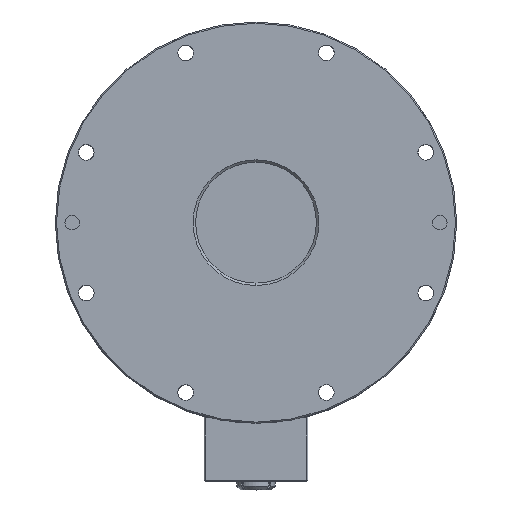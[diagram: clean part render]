
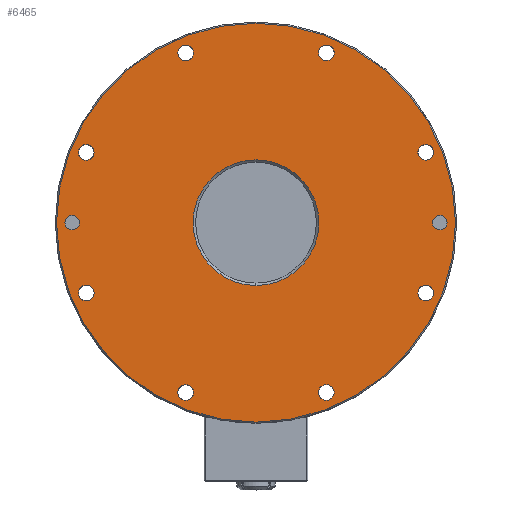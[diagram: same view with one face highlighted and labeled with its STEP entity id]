
A CAD part, top view. The second image highlights one B-rep face of the part: STEP entity #6465.
In plain terms, the highlighted planar face has unit normal (0, 0, 1).
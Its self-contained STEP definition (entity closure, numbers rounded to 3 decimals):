
#5780=CARTESIAN_POINT('',(0.,0.,13.));
#5781=DIRECTION('',(0.,0.,-1.));
#5782=DIRECTION('',(0.,-1.,0.));
#5783=AXIS2_PLACEMENT_3D('',#5780,#5781,#5782);
#5785=CARTESIAN_POINT('',(0.,0.,13.));
#5786=DIRECTION('',(0.,0.,-1.));
#5787=DIRECTION('',(0.,1.,0.));
#5788=AXIS2_PLACEMENT_3D('',#5785,#5786,#5787);
#5790=CARTESIAN_POINT('',(29.084,-70.215,13.));
#5791=DIRECTION('',(0.,0.,1.));
#5792=DIRECTION('',(-0.707,-0.707,0.));
#5793=AXIS2_PLACEMENT_3D('',#5790,#5791,#5792);
#5795=CARTESIAN_POINT('',(29.084,-70.215,13.));
#5796=DIRECTION('',(0.,0.,1.));
#5797=DIRECTION('',(0.707,0.707,0.));
#5798=AXIS2_PLACEMENT_3D('',#5795,#5796,#5797);
#5800=CARTESIAN_POINT('',(70.215,-29.084,13.));
#5801=DIRECTION('',(0.,0.,1.));
#5802=DIRECTION('',(0.,-1.,0.));
#5803=AXIS2_PLACEMENT_3D('',#5800,#5801,#5802);
#5805=CARTESIAN_POINT('',(70.215,-29.084,13.));
#5806=DIRECTION('',(0.,0.,1.));
#5807=DIRECTION('',(0.,1.,0.));
#5808=AXIS2_PLACEMENT_3D('',#5805,#5806,#5807);
#5810=CARTESIAN_POINT('',(70.215,29.084,13.));
#5811=DIRECTION('',(0.,0.,1.));
#5812=DIRECTION('',(0.707,-0.707,0.));
#5813=AXIS2_PLACEMENT_3D('',#5810,#5811,#5812);
#5815=CARTESIAN_POINT('',(70.215,29.084,13.));
#5816=DIRECTION('',(0.,0.,1.));
#5817=DIRECTION('',(-0.707,0.707,0.));
#5818=AXIS2_PLACEMENT_3D('',#5815,#5816,#5817);
#5820=CARTESIAN_POINT('',(29.084,70.215,13.));
#5821=DIRECTION('',(0.,0.,1.));
#5822=DIRECTION('',(1.,0.,0.));
#5823=AXIS2_PLACEMENT_3D('',#5820,#5821,#5822);
#5825=CARTESIAN_POINT('',(29.084,70.215,13.));
#5826=DIRECTION('',(0.,0.,1.));
#5827=DIRECTION('',(-1.,0.,0.));
#5828=AXIS2_PLACEMENT_3D('',#5825,#5826,#5827);
#5830=CARTESIAN_POINT('',(-29.084,70.215,13.));
#5831=DIRECTION('',(0.,0.,1.));
#5832=DIRECTION('',(0.707,0.707,0.));
#5833=AXIS2_PLACEMENT_3D('',#5830,#5831,#5832);
#5835=CARTESIAN_POINT('',(-29.084,70.215,13.));
#5836=DIRECTION('',(0.,0.,1.));
#5837=DIRECTION('',(-0.707,-0.707,0.));
#5838=AXIS2_PLACEMENT_3D('',#5835,#5836,#5837);
#5840=CARTESIAN_POINT('',(-70.215,29.084,13.));
#5841=DIRECTION('',(0.,0.,1.));
#5842=DIRECTION('',(0.,1.,0.));
#5843=AXIS2_PLACEMENT_3D('',#5840,#5841,#5842);
#5845=CARTESIAN_POINT('',(-70.215,29.084,13.));
#5846=DIRECTION('',(0.,0.,1.));
#5847=DIRECTION('',(0.,-1.,0.));
#5848=AXIS2_PLACEMENT_3D('',#5845,#5846,#5847);
#5850=CARTESIAN_POINT('',(-70.215,-29.084,13.));
#5851=DIRECTION('',(0.,0.,1.));
#5852=DIRECTION('',(-0.707,0.707,0.));
#5853=AXIS2_PLACEMENT_3D('',#5850,#5851,#5852);
#5855=CARTESIAN_POINT('',(-70.215,-29.084,13.));
#5856=DIRECTION('',(0.,0.,1.));
#5857=DIRECTION('',(0.707,-0.707,0.));
#5858=AXIS2_PLACEMENT_3D('',#5855,#5856,#5857);
#5860=CARTESIAN_POINT('',(0.,0.,13.));
#5861=DIRECTION('',(0.,0.,1.));
#5862=DIRECTION('',(1.,0.,0.));
#5863=AXIS2_PLACEMENT_3D('',#5860,#5861,#5862);
#5865=CARTESIAN_POINT('',(0.,0.,13.));
#5866=DIRECTION('',(0.,0.,1.));
#5867=DIRECTION('',(-1.,0.,0.));
#5868=AXIS2_PLACEMENT_3D('',#5865,#5866,#5867);
#5870=CARTESIAN_POINT('',(0.,76.,13.));
#5871=DIRECTION('',(0.,0.,1.));
#5872=DIRECTION('',(1.,0.,0.));
#5873=AXIS2_PLACEMENT_3D('',#5870,#5871,#5872);
#5875=CARTESIAN_POINT('',(0.,76.,13.));
#5876=DIRECTION('',(0.,0.,1.));
#5877=DIRECTION('',(-1.,0.,0.));
#5878=AXIS2_PLACEMENT_3D('',#5875,#5876,#5877);
#5880=CARTESIAN_POINT('',(0.,-76.,13.));
#5881=DIRECTION('',(0.,0.,1.));
#5882=DIRECTION('',(-1.,0.,0.));
#5883=AXIS2_PLACEMENT_3D('',#5880,#5881,#5882);
#5885=CARTESIAN_POINT('',(0.,-76.,13.));
#5886=DIRECTION('',(0.,0.,1.));
#5887=DIRECTION('',(1.,0.,0.));
#5888=AXIS2_PLACEMENT_3D('',#5885,#5886,#5887);
#5890=CARTESIAN_POINT('',(-29.084,-70.215,13.));
#5891=DIRECTION('',(0.,0.,1.));
#5892=DIRECTION('',(-1.,0.,0.));
#5893=AXIS2_PLACEMENT_3D('',#5890,#5891,#5892);
#5895=CARTESIAN_POINT('',(-29.084,-70.215,13.));
#5896=DIRECTION('',(0.,0.,1.));
#5897=DIRECTION('',(1.,0.,0.));
#5898=AXIS2_PLACEMENT_3D('',#5895,#5896,#5897);
#6164=CARTESIAN_POINT('',(0.,-82.5,13.));
#6165=CARTESIAN_POINT('',(0.,82.5,13.));
#6166=VERTEX_POINT('',#6164);
#6167=VERTEX_POINT('',#6165);
#6168=CARTESIAN_POINT('',(26.786,-72.513,13.));
#6169=CARTESIAN_POINT('',(31.382,-67.917,13.));
#6170=VERTEX_POINT('',#6168);
#6171=VERTEX_POINT('',#6169);
#6172=CARTESIAN_POINT('',(70.215,-32.334,13.));
#6173=CARTESIAN_POINT('',(70.215,-25.834,13.));
#6174=VERTEX_POINT('',#6172);
#6175=VERTEX_POINT('',#6173);
#6176=CARTESIAN_POINT('',(72.513,26.786,13.));
#6177=CARTESIAN_POINT('',(67.917,31.382,13.));
#6178=VERTEX_POINT('',#6176);
#6179=VERTEX_POINT('',#6177);
#6180=CARTESIAN_POINT('',(32.334,70.215,13.));
#6181=CARTESIAN_POINT('',(25.834,70.215,13.));
#6182=VERTEX_POINT('',#6180);
#6183=VERTEX_POINT('',#6181);
#6184=CARTESIAN_POINT('',(-26.786,72.513,13.));
#6185=CARTESIAN_POINT('',(-31.382,67.917,13.));
#6186=VERTEX_POINT('',#6184);
#6187=VERTEX_POINT('',#6185);
#6188=CARTESIAN_POINT('',(-70.215,32.334,13.));
#6189=CARTESIAN_POINT('',(-70.215,25.834,13.));
#6190=VERTEX_POINT('',#6188);
#6191=VERTEX_POINT('',#6189);
#6192=CARTESIAN_POINT('',(-72.513,-26.786,13.));
#6193=CARTESIAN_POINT('',(-67.917,-31.382,13.));
#6194=VERTEX_POINT('',#6192);
#6195=VERTEX_POINT('',#6193);
#6196=CARTESIAN_POINT('',(3.005,76.,13.));
#6197=CARTESIAN_POINT('',(-3.005,76.,13.));
#6198=VERTEX_POINT('',#6196);
#6199=VERTEX_POINT('',#6197);
#6200=CARTESIAN_POINT('',(-3.005,-76.,13.));
#6201=CARTESIAN_POINT('',(3.005,-76.,13.));
#6202=VERTEX_POINT('',#6200);
#6203=VERTEX_POINT('',#6201);
#6204=CARTESIAN_POINT('',(-32.334,-70.215,13.));
#6205=CARTESIAN_POINT('',(-25.834,-70.215,13.));
#6206=VERTEX_POINT('',#6204);
#6207=VERTEX_POINT('',#6205);
#6209=CARTESIAN_POINT('',(26.,0.,13.));
#6211=VERTEX_POINT('',#6209);
#6216=CARTESIAN_POINT('',(-26.,0.,13.));
#6217=VERTEX_POINT('',#6216);
#6389=CARTESIAN_POINT('',(0.,0.,13.));
#6390=DIRECTION('',(0.,0.,1.));
#6391=DIRECTION('',(0.,-1.,0.));
#6392=AXIS2_PLACEMENT_3D('',#6389,#6390,#6391);
#6393=PLANE('',#6392);
#6394=ORIENTED_EDGE('',*,*,#6379,.T.);
#6396=ORIENTED_EDGE('',*,*,#6395,.T.);
#6397=EDGE_LOOP('',(#6394,#6396));
#6398=FACE_OUTER_BOUND('',#6397,.F.);
#6400=ORIENTED_EDGE('',*,*,#6399,.T.);
#6402=ORIENTED_EDGE('',*,*,#6401,.T.);
#6403=EDGE_LOOP('',(#6400,#6402));
#6404=FACE_BOUND('',#6403,.F.);
#6406=ORIENTED_EDGE('',*,*,#6405,.T.);
#6408=ORIENTED_EDGE('',*,*,#6407,.T.);
#6409=EDGE_LOOP('',(#6406,#6408));
#6410=FACE_BOUND('',#6409,.F.);
#6412=ORIENTED_EDGE('',*,*,#6411,.T.);
#6414=ORIENTED_EDGE('',*,*,#6413,.T.);
#6415=EDGE_LOOP('',(#6412,#6414));
#6416=FACE_BOUND('',#6415,.F.);
#6418=ORIENTED_EDGE('',*,*,#6417,.T.);
#6420=ORIENTED_EDGE('',*,*,#6419,.T.);
#6421=EDGE_LOOP('',(#6418,#6420));
#6422=FACE_BOUND('',#6421,.F.);
#6424=ORIENTED_EDGE('',*,*,#6423,.T.);
#6426=ORIENTED_EDGE('',*,*,#6425,.T.);
#6427=EDGE_LOOP('',(#6424,#6426));
#6428=FACE_BOUND('',#6427,.F.);
#6430=ORIENTED_EDGE('',*,*,#6429,.T.);
#6432=ORIENTED_EDGE('',*,*,#6431,.T.);
#6433=EDGE_LOOP('',(#6430,#6432));
#6434=FACE_BOUND('',#6433,.F.);
#6436=ORIENTED_EDGE('',*,*,#6435,.T.);
#6438=ORIENTED_EDGE('',*,*,#6437,.T.);
#6439=EDGE_LOOP('',(#6436,#6438));
#6440=FACE_BOUND('',#6439,.F.);
#6442=ORIENTED_EDGE('',*,*,#6441,.T.);
#6444=ORIENTED_EDGE('',*,*,#6443,.T.);
#6445=EDGE_LOOP('',(#6442,#6444));
#6446=FACE_BOUND('',#6445,.F.);
#6448=ORIENTED_EDGE('',*,*,#6447,.T.);
#6450=ORIENTED_EDGE('',*,*,#6449,.T.);
#6451=EDGE_LOOP('',(#6448,#6450));
#6452=FACE_BOUND('',#6451,.F.);
#6454=ORIENTED_EDGE('',*,*,#6453,.T.);
#6456=ORIENTED_EDGE('',*,*,#6455,.T.);
#6457=EDGE_LOOP('',(#6454,#6456));
#6458=FACE_BOUND('',#6457,.F.);
#6460=ORIENTED_EDGE('',*,*,#6459,.T.);
#6462=ORIENTED_EDGE('',*,*,#6461,.T.);
#6463=EDGE_LOOP('',(#6460,#6462));
#6464=FACE_BOUND('',#6463,.F.);
#6465=ADVANCED_FACE('',(#6398,#6404,#6410,#6416,#6422,#6428,#6434,#6440,#6446,
#6452,#6458,#6464),#6393,.T.);
#5784=CIRCLE('',#5783,82.5);
#5789=CIRCLE('',#5788,82.5);
#5794=CIRCLE('',#5793,3.25);
#5799=CIRCLE('',#5798,3.25);
#5804=CIRCLE('',#5803,3.25);
#5809=CIRCLE('',#5808,3.25);
#5814=CIRCLE('',#5813,3.25);
#5819=CIRCLE('',#5818,3.25);
#5824=CIRCLE('',#5823,3.25);
#5829=CIRCLE('',#5828,3.25);
#5834=CIRCLE('',#5833,3.25);
#5839=CIRCLE('',#5838,3.25);
#5844=CIRCLE('',#5843,3.25);
#5849=CIRCLE('',#5848,3.25);
#5854=CIRCLE('',#5853,3.25);
#5859=CIRCLE('',#5858,3.25);
#5864=CIRCLE('',#5863,26.);
#5869=CIRCLE('',#5868,26.);
#5874=CIRCLE('',#5873,3.005);
#5879=CIRCLE('',#5878,3.005);
#5884=CIRCLE('',#5883,3.005);
#5889=CIRCLE('',#5888,3.005);
#5894=CIRCLE('',#5893,3.25);
#5899=CIRCLE('',#5898,3.25);
#6379=EDGE_CURVE('',#6166,#6167,#5784,.T.);
#6395=EDGE_CURVE('',#6167,#6166,#5789,.T.);
#6399=EDGE_CURVE('',#6170,#6171,#5794,.T.);
#6401=EDGE_CURVE('',#6171,#6170,#5799,.T.);
#6405=EDGE_CURVE('',#6174,#6175,#5804,.T.);
#6407=EDGE_CURVE('',#6175,#6174,#5809,.T.);
#6411=EDGE_CURVE('',#6178,#6179,#5814,.T.);
#6413=EDGE_CURVE('',#6179,#6178,#5819,.T.);
#6417=EDGE_CURVE('',#6182,#6183,#5824,.T.);
#6419=EDGE_CURVE('',#6183,#6182,#5829,.T.);
#6423=EDGE_CURVE('',#6186,#6187,#5834,.T.);
#6425=EDGE_CURVE('',#6187,#6186,#5839,.T.);
#6429=EDGE_CURVE('',#6190,#6191,#5844,.T.);
#6431=EDGE_CURVE('',#6191,#6190,#5849,.T.);
#6435=EDGE_CURVE('',#6194,#6195,#5854,.T.);
#6437=EDGE_CURVE('',#6195,#6194,#5859,.T.);
#6441=EDGE_CURVE('',#6211,#6217,#5864,.T.);
#6443=EDGE_CURVE('',#6217,#6211,#5869,.T.);
#6447=EDGE_CURVE('',#6198,#6199,#5874,.T.);
#6449=EDGE_CURVE('',#6199,#6198,#5879,.T.);
#6453=EDGE_CURVE('',#6202,#6203,#5884,.T.);
#6455=EDGE_CURVE('',#6203,#6202,#5889,.T.);
#6459=EDGE_CURVE('',#6206,#6207,#5894,.T.);
#6461=EDGE_CURVE('',#6207,#6206,#5899,.T.);
